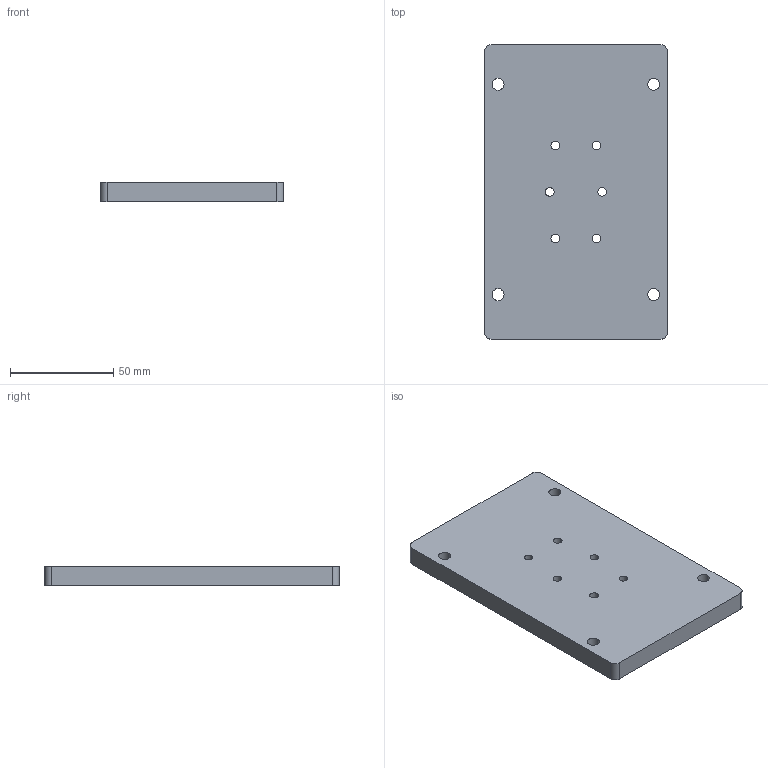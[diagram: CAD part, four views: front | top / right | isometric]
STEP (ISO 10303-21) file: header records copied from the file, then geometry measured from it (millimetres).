
FILE_DESCRIPTION (( 'STEP AP203' ), '1' );
FILE_NAME ('SLM-517-S-LECTOR64X65X.STEP', '2018-08-24T11:33:18', ( 'admin' ), ( '' ), 'SwSTEP 2.0', 'SolidWorks 2018', '' );
FILE_SCHEMA (( 'CONFIG_CONTROL_DESIGN' ));
Length unit declared in the file: inch
Products named in the file (1): SLM-517-S-LECTOR64X65X
Bounding box: 88.82 x 142.75 x 9.53 mm (x, y, z)
Volume: 117801.9 mm3; surface area: 31047.9 mm2
Topology: 1 solids, 1 shells, 58 faces, 153 edges, 102 vertices
Faces by surface type: cylinder 32, plane 25, bspline 1
Entity records: 1974 total; most frequent: CARTESIAN_POINT 355, DIRECTION 331, ORIENTED_EDGE 306, EDGE_CURVE 153, AXIS2_PLACEMENT_3D 122, VERTEX_POINT 102, VECTOR 87, LINE 87
